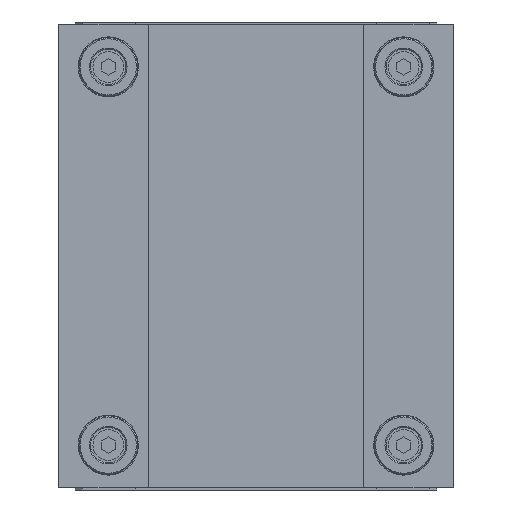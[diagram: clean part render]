
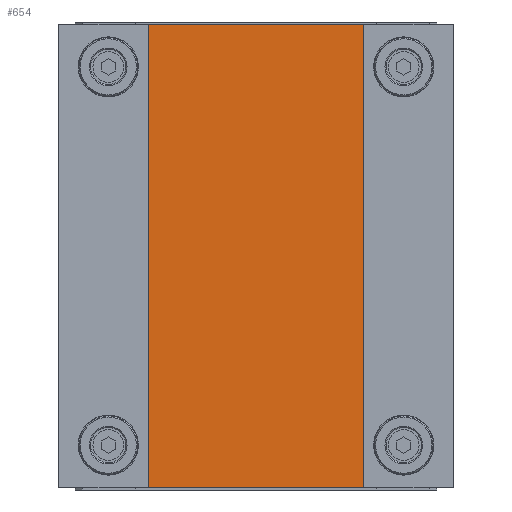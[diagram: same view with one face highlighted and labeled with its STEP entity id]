
A CAD part, front view. The second image highlights one B-rep face of the part: STEP entity #654.
In plain terms, the highlighted planar face has unit normal (0, -1, 0).
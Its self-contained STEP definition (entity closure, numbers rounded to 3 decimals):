
#380 = VERTEX_POINT ( 'NONE', #1760 ) ;
#467 = EDGE_CURVE ( 'NONE', #493, #380, #2042, .T. ) ;
#493 = VERTEX_POINT ( 'NONE', #2244 ) ;
#654 = ADVANCED_FACE ( 'NONE', ( #3426 ), #3427, .F. ) ;
#681 = EDGE_LOOP ( 'NONE', ( #833, #1709, #2229, #3127 ) ) ;
#833 = ORIENTED_EDGE ( 'NONE', *, *, #1168, .T. ) ;
#1168 = EDGE_CURVE ( 'NONE', #380, #9797, #4244, .T. ) ;
#1709 = ORIENTED_EDGE ( 'NONE', *, *, #5657, .F. ) ;
#1760 = CARTESIAN_POINT ( 'NONE',  ( -49.5, -16., -98. ) ) ;
#2042 = LINE ( 'NONE', #2043, #2044 ) ;
#2043 = CARTESIAN_POINT ( 'NONE',  ( -49.5, -16., 98. ) ) ;
#2044 = VECTOR ( 'NONE', #2045, 1000. ) ;
#2045 = DIRECTION ( 'NONE',  ( 0., 0., -1. ) ) ;
#2229 = ORIENTED_EDGE ( 'NONE', *, *, #2572, .F. ) ;
#2244 = CARTESIAN_POINT ( 'NONE',  ( -49.5, -16., 98. ) ) ;
#2572 = EDGE_CURVE ( 'NONE', #493, #4794, #5497, .T. ) ;
#3127 = ORIENTED_EDGE ( 'NONE', *, *, #467, .T. ) ;
#3426 = FACE_OUTER_BOUND ( 'NONE', #681, .T. ) ;
#3427 = PLANE ( 'NONE',  #3428 ) ;
#3428 = AXIS2_PLACEMENT_3D ( 'NONE', #3429, #3433, #3434 ) ;
#3429 = CARTESIAN_POINT ( 'NONE',  ( 49.5, -16., 98. ) ) ;
#3433 = DIRECTION ( 'NONE',  ( 0., 1., 0. ) ) ;
#3434 = DIRECTION ( 'NONE',  ( -1., 0., 0. ) ) ;
#3508 = CARTESIAN_POINT ( 'NONE',  ( 49.5, -16., -98. ) ) ;
#4244 = LINE ( 'NONE', #4245, #4246 ) ;
#4245 = CARTESIAN_POINT ( 'NONE',  ( 49.5, -16., -98. ) ) ;
#4246 = VECTOR ( 'NONE', #4247, 1000. ) ;
#4247 = DIRECTION ( 'NONE',  ( 1., 0., 0. ) ) ;
#4794 = VERTEX_POINT ( 'NONE', #7151 ) ;
#5497 = LINE ( 'NONE', #5498, #5499 ) ;
#5498 = CARTESIAN_POINT ( 'NONE',  ( 49.5, -16., 98. ) ) ;
#5499 = VECTOR ( 'NONE', #5500, 1000. ) ;
#5500 = DIRECTION ( 'NONE',  ( 1., 0., 0. ) ) ;
#5657 = EDGE_CURVE ( 'NONE', #4794, #9797, #7565, .T. ) ;
#7151 = CARTESIAN_POINT ( 'NONE',  ( 49.5, -16., 98. ) ) ;
#7565 = LINE ( 'NONE', #7566, #7567 ) ;
#7566 = CARTESIAN_POINT ( 'NONE',  ( 49.5, -16., 98. ) ) ;
#7567 = VECTOR ( 'NONE', #7568, 1000. ) ;
#7568 = DIRECTION ( 'NONE',  ( 0., 0., -1. ) ) ;
#9797 = VERTEX_POINT ( 'NONE', #3508 ) ;
